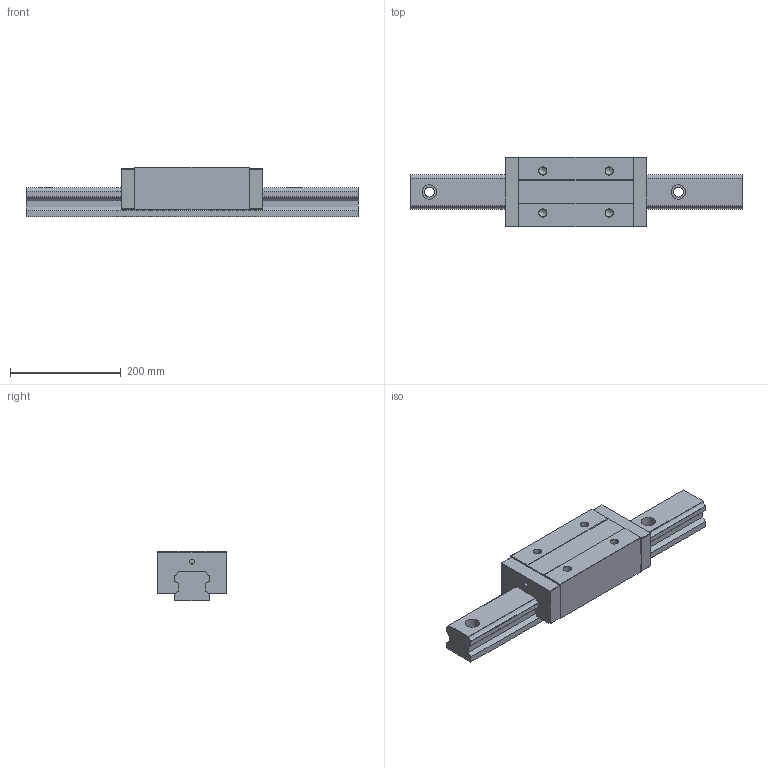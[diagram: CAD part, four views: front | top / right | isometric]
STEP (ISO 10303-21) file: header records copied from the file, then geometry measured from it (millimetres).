
FILE_DESCRIPTION(/* description */ (''),/* implementation_level */ '2;1');
FILE_NAME(/* name */ 'TRH65VE-XN.stp',/* time_stamp */ '2017-10-25T15:06:58+08:00',/* author */ (''),/* organization */ (''),/* preprocessor_version */ 'ST-DEVELOPER v11',/* originating_system */ 'SIEMENS UGS NX 6.0',/* authorisation */ '');
FILE_SCHEMA (('AUTOMOTIVE_DESIGN { 1 0 10303 214 1 1 1 1 }'));
Length unit declared in the file: millimetre
Products named in the file (1): TRH65VE-XN
Bounding box: 600 x 126 x 90 mm (x, y, z)
Volume: 3574093.4 mm3; surface area: 306161.4 mm2
Topology: 2 solids, 2 shells, 112 faces, 290 edges, 188 vertices
Faces by surface type: plane 70, cylinder 34, cone 8
Full cylindrical faces by diameter (mm): 9.175 x2, 14 x4, 18 x4, 26 x4
Entity records: 3774 total; most frequent: DIRECTION 554, CARTESIAN_POINT 549, ORIENTED_EDGE 512, EDGE_CURVE 256, AXIS2_PLACEMENT_3D 185, LINE 184, VECTOR 184, VERTEX_POINT 180
